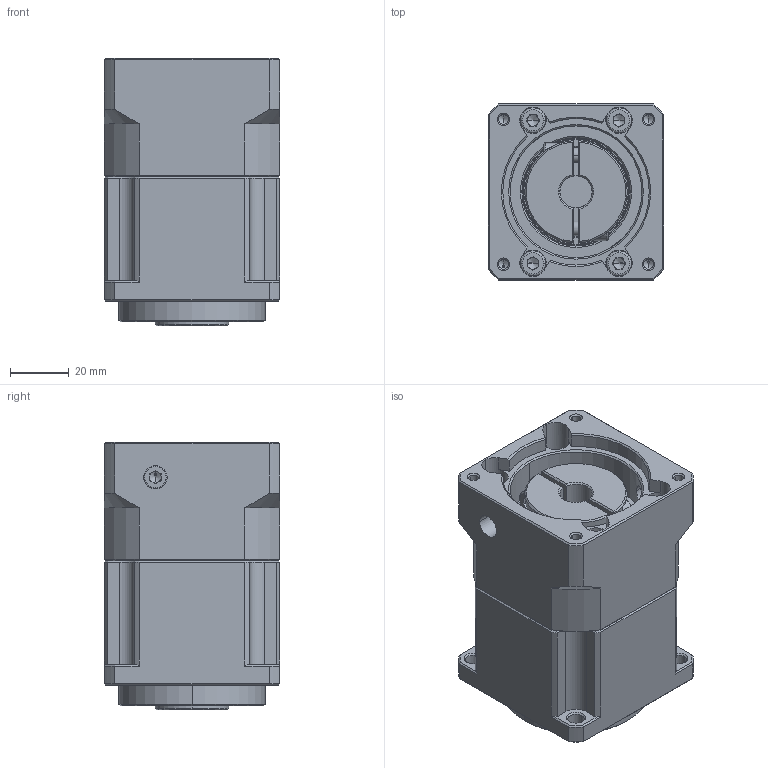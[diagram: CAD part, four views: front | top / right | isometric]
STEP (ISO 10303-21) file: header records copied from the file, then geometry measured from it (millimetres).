
FILE_DESCRIPTION (( 'STEP AP214' ), '1' );
FILE_NAME ('ZPB060-K16-L1-P1-11-50-70-M4.step', '2024-04-24T07:34:25', ( '' ), ( '' ), 'SwSTEP 2.0', 'SolidWorks 2016', '' );
FILE_SCHEMA (( 'AUTOMOTIVE_DESIGN' ));
Length unit declared in the file: millimetre
Products named in the file (1): ZPB060-K16-L1-P1-11-50-70-M4
Bounding box: 60 x 60 x 91.5 mm (x, y, z)
Volume: 244216.3 mm3; surface area: 65257.2 mm2
Topology: 13 solids, 22 shells, 1677 faces, 4772 edges, 3099 vertices
Faces by surface type: plane 867, bspline 315, cylinder 219, cone 138, torus 92, sphere 46
Entity records: 86728 total; most frequent: CARTESIAN_POINT 27508, ORIENTED_EDGE 9242, DIRECTION 7145, EDGE_CURVE 4621, VERTEX_POINT 3030, LINE 2731, VECTOR 2731, AXIS2_PLACEMENT_3D 2207
